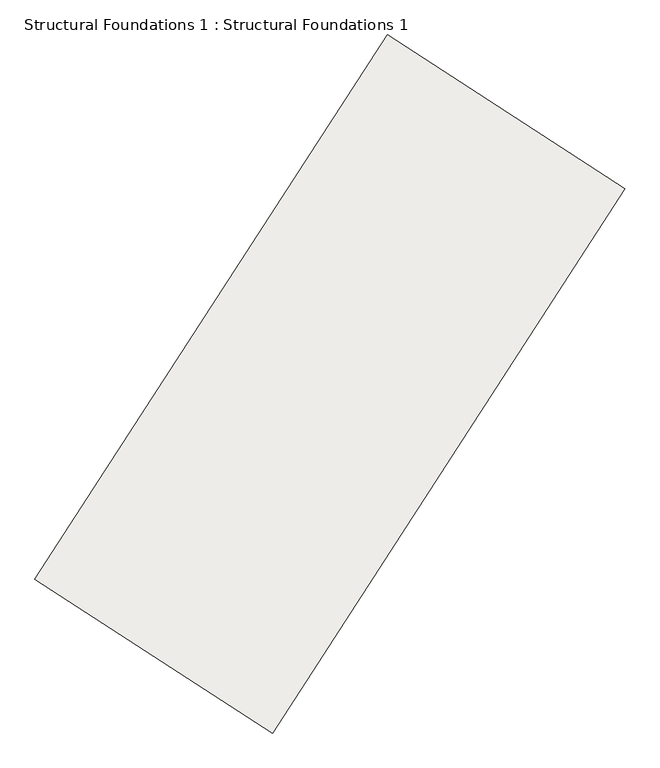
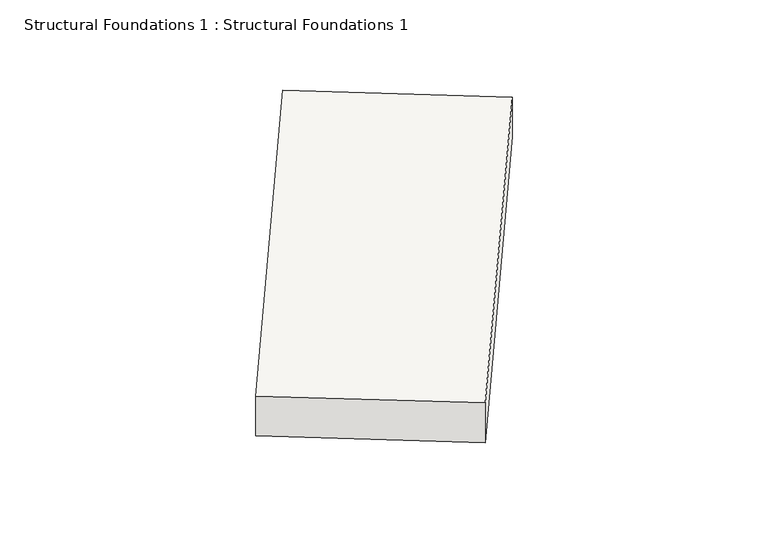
"""IFC4 building model written with IfcOpenShell, lengths in millimetres: slab geometry, Structural Foundations 1 : Structural Foundations 1."""

from ifc_helpers import new_model, si_unit, origin, place, context, project, spatial, faceted_brep, source, transform, mapped, element, save


def structural_foundations_1_structural_foundations_1_ebac95fc(model_context):
    return source(origin(), model_context, "Body", "Brep", [
        faceted_brep([(-350611.7552874, -507752.8119384, 634070.0), (-353800.2580148, -505685.5794025, 634070.0), (-353800.2580148, -505685.5794025, 633270.0), (-350611.7552874, -507752.8119384, 633270.0), (-345878.902922, -500452.8045094, 634160.0), (-345878.902922, -500452.8045094, 633360.0), (-349067.3835255, -498385.5863173, 633360.0), (-349067.3835255, -498385.5863173, 634160.0)], [[[0, 1, 2, 3]], [[4, 5, 6, 7]], [[4, 7, 1, 0]], [[7, 6, 2, 1]], [[6, 5, 3, 2]], [[5, 4, 0, 3]]]),
    ])


if __name__ == "__main__":
    model = new_model("IFC4")
    model_context = context("Model", 3, world=origin())
    ifc_project = project(units=[si_unit("LENGTHUNIT", "METRE", prefix="MILLI")], contexts=[model_context])
    site = spatial("IfcSite", under=ifc_project)
    building = spatial("IfcBuilding", under=site)
    placement = place(None, origin())
    structural_foundations_1_structural_foundations_1_shape = structural_foundations_1_structural_foundations_1_ebac95fc(model_context)
    element("IfcSlab", 1, ObjectType="Structural Foundations 1 : Structural Foundations 1", at=placement, inside=building, context=model_context, shape_type="MappedRepresentation", body=[
        mapped(structural_foundations_1_structural_foundations_1_shape, transform((0.0, 0.0, 0.0), x_axis=(1.0, 0.0, 0.0), y_axis=(0.0, 1.0, 0.0), z_axis=(0.0, 0.0, 1.0))),
    ])
    save(model, "model.ifc")
